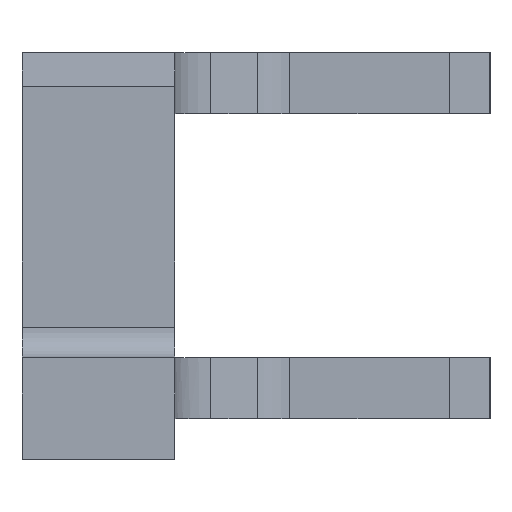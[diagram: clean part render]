
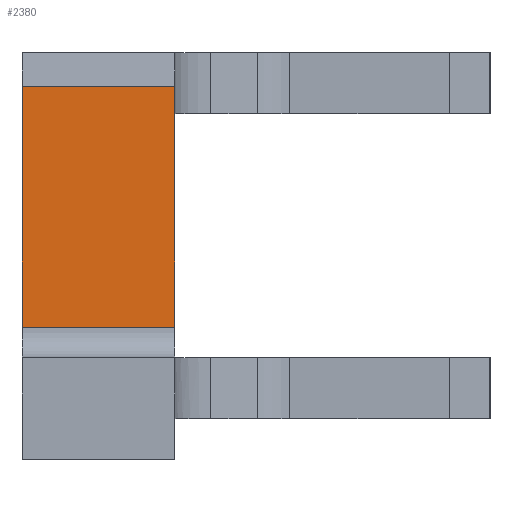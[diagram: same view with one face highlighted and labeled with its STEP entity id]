
A CAD part, left-side view. The second image highlights one B-rep face of the part: STEP entity #2380.
In plain terms, the highlighted planar face has unit normal (-1, 0, 0).
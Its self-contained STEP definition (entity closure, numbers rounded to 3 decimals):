
#1064=CARTESIAN_POINT('',(-80.112,28.039,73.337));
#1065=VERTEX_POINT('',#1064);
#1072=CARTESIAN_POINT('',(-80.112,28.039,26.));
#1073=VERTEX_POINT('',#1072);
#1074=CARTESIAN_POINT('',(-80.112,28.039,73.337));
#1075=DIRECTION('',(0.0,0.0,-1.0));
#1076=VECTOR('',#1075,47.337);
#1077=LINE('',#1074,#1076);
#1078=EDGE_CURVE('',#1065,#1073,#1077,.T.);
#2111=CARTESIAN_POINT('',(-80.112,58.039,73.337));
#2112=VERTEX_POINT('',#2111);
#2184=CARTESIAN_POINT('',(-80.112,58.039,26.));
#2185=VERTEX_POINT('',#2184);
#2193=CARTESIAN_POINT('',(-80.112,58.039,26.));
#2194=DIRECTION('',(0.0,0.0,1.0));
#2195=VECTOR('',#2194,47.337);
#2196=LINE('',#2193,#2195);
#2197=EDGE_CURVE('',#2185,#2112,#2196,.T.);
#2355=CARTESIAN_POINT('',(-80.112,58.039,73.337));
#2356=DIRECTION('',(0.0,-1.0,0.0));
#2357=VECTOR('',#2356,30.0);
#2358=LINE('',#2355,#2357);
#2359=EDGE_CURVE('',#2112,#1065,#2358,.T.);
#2364=CARTESIAN_POINT('',(-80.112,58.039,73.337));
#2365=DIRECTION('',(1.0,0.0,0.0));
#2366=DIRECTION('',(0.0,0.0,-1.0));
#2367=AXIS2_PLACEMENT_3D('',#2364,#2365,#2366);
#2368=PLANE('',#2367);
#2369=ORIENTED_EDGE('',*,*,#1078,.F.);
#2370=ORIENTED_EDGE('',*,*,#2359,.F.);
#2371=ORIENTED_EDGE('',*,*,#2197,.F.);
#2372=CARTESIAN_POINT('',(-80.112,58.039,26.));
#2373=DIRECTION('',(0.0,-1.0,0.0));
#2374=VECTOR('',#2373,30.0);
#2375=LINE('',#2372,#2374);
#2376=EDGE_CURVE('',#2185,#1073,#2375,.T.);
#2377=ORIENTED_EDGE('',*,*,#2376,.T.);
#2378=EDGE_LOOP('',(#2369,#2370,#2371,#2377));
#2379=FACE_OUTER_BOUND('',#2378,.T.);
#2380=ADVANCED_FACE('',(#2379),#2368,.F.);
